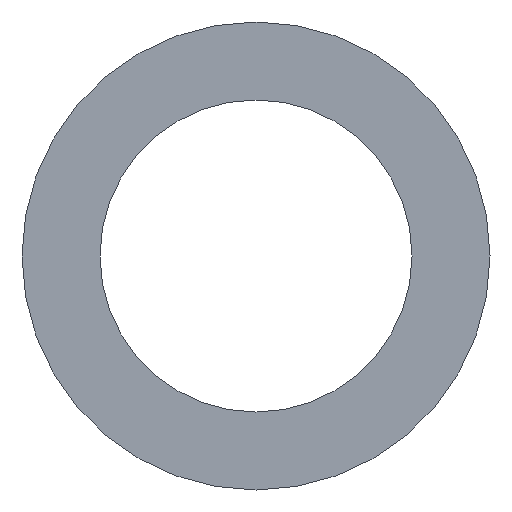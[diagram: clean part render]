
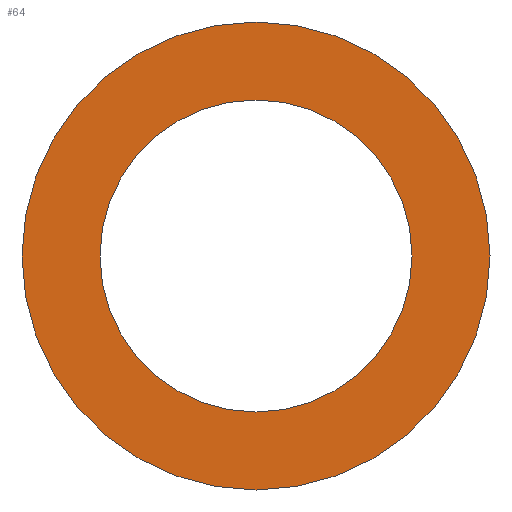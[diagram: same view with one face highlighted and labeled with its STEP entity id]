
A CAD part, front view. The second image highlights one B-rep face of the part: STEP entity #64.
In plain terms, the highlighted planar face has unit normal (0, -1, 0).
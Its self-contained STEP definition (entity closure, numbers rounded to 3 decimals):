
#16=FACE_BOUND('',#28,.T.);
#18=PLANE('',#86);
#22=FACE_OUTER_BOUND('',#27,.T.);
#27=EDGE_LOOP('',(#57));
#28=EDGE_LOOP('',(#58));
#34=CIRCLE('',#81,6.);
#36=CIRCLE('',#84,9.);
#38=VERTEX_POINT('',#111);
#40=VERTEX_POINT('',#117);
#43=EDGE_CURVE('',#38,#38,#34,.T.);
#46=EDGE_CURVE('',#40,#40,#36,.T.);
#57=ORIENTED_EDGE('',*,*,#46,.F.);
#58=ORIENTED_EDGE('',*,*,#43,.F.);
#64=ADVANCED_FACE('',(#22,#16),#18,.F.);
#81=AXIS2_PLACEMENT_3D('',#113,#94,#95);
#84=AXIS2_PLACEMENT_3D('',#119,#101,#102);
#86=AXIS2_PLACEMENT_3D('',#121,#105,#106);
#94=DIRECTION('center_axis',(0.,-1.,0.));
#95=DIRECTION('ref_axis',(1.,0.,0.));
#101=DIRECTION('center_axis',(0.,1.,0.));
#102=DIRECTION('ref_axis',(1.,0.,0.));
#105=DIRECTION('center_axis',(0.,1.,0.));
#106=DIRECTION('ref_axis',(1.,0.,0.));
#111=CARTESIAN_POINT('',(-6.,0.,0.));
#113=CARTESIAN_POINT('Origin',(0.,0.,0.));
#117=CARTESIAN_POINT('',(-9.,0.,0.));
#119=CARTESIAN_POINT('Origin',(0.,0.,0.));
#121=CARTESIAN_POINT('Origin',(0.,0.,0.));
